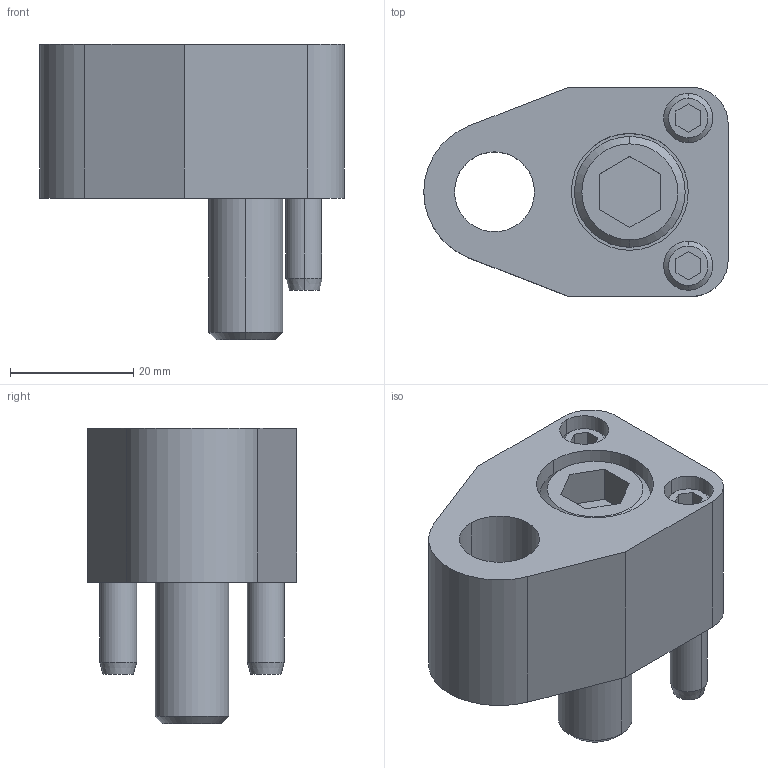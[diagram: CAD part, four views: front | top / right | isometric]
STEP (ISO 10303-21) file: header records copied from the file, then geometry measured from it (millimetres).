
FILE_DESCRIPTION(/* description */ (''),/* implementation_level */ '2;1');
FILE_NAME(/* name */ '3d_spars13_02786_r00.stp',/* time_stamp */ '2011-01-10T14:10:14+09:00',/* author */ ('MISUMI'),/* organization */ (''),/* preprocessor_version */ 'ST-DEVELOPER v11',/* originating_system */ 'UGS - NX 5.0',/* authorisation */ '');
FILE_SCHEMA (('CONFIG_CONTROL_DESIGN'));
Length unit declared in the file: millimetre
Products named in the file (1): 3d_spars13_02786_r00
Bounding box: 49.5 x 34 x 48 mm (x, y, z)
Volume: 33253.2 mm3; surface area: 13994.6 mm2
Topology: 6 solids, 6 shells, 112 faces, 242 edges, 154 vertices
Faces by surface type: plane 49, cylinder 41, cone 22
Entity records: 3186 total; most frequent: DIRECTION 568, CARTESIAN_POINT 557, ORIENTED_EDGE 484, EDGE_CURVE 242, AXIS2_PLACEMENT_3D 217, VERTEX_POINT 154, LINE 134, VECTOR 134
